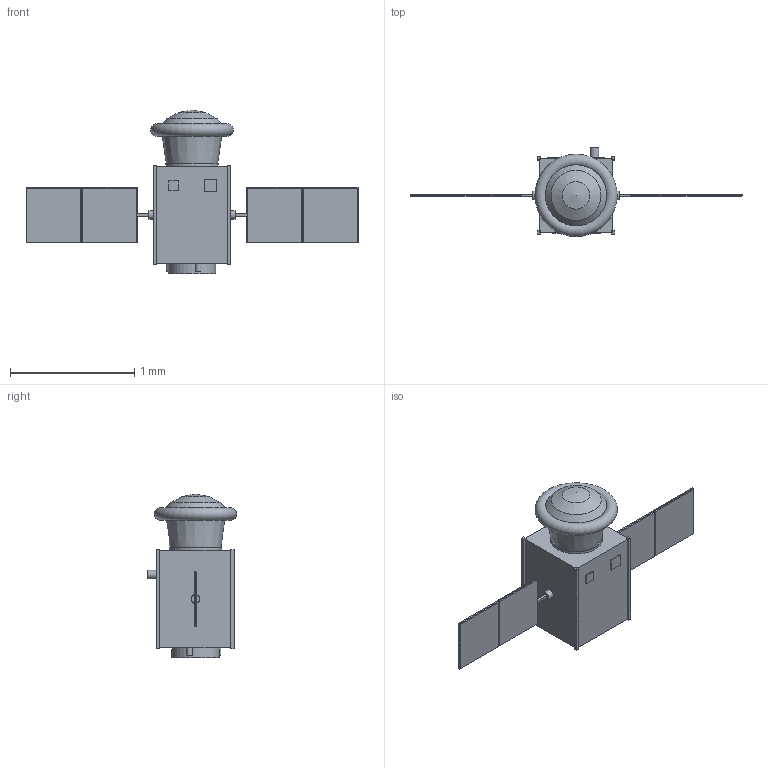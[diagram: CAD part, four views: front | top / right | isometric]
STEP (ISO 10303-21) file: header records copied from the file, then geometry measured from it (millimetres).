
FILE_DESCRIPTION(('Open CASCADE Model'),'2;1');
FILE_NAME('Open CASCADE Shape Model','2026-10-04T13:15:41',('Author'),( 'Open CASCADE'),'Open CASCADE STEP processor 7.9','Open CASCADE 7.9' ,'Unknown');
FILE_SCHEMA(('AUTOMOTIVE_DESIGN { 1 0 10303 214 1 1 1 1 }'));
Length unit declared in the file: millimetre
Products named in the file (51): SP-MECH; capsule_backshell; nose; heat_shield_packed; sample_drawer; sample_cassette_1; sample_cassette_2; sample_cassette_3; sample_cassette_4; optical_window; capsule_avionics_and_hold_battery; parachute_canister; recovery_beacon; separation_interface; service_module_structure; corner_rail_-X-Y; corner_rail_-X+Y; corner_rail_+X-Y; corner_rail_+X+Y; radiator_+Y_face; experiment_instruments_microscope_pumps_reservoirs; propellant_tank_LMP-103S; battery; on-board_computer_and_radios; reaction_wheel_1; reaction_wheel_2; reaction_wheel_3; magnetorquer_1; magnetorquer_2; star_tracker; S-band_antenna; X-band_antenna; 1_g_centrifuge_housing; 1_g_rotor_and_ring_cassette_8_cm_radius; counter-rotor; 22_N_thruster_1; 22_N_thruster_2; 22_N_thruster_3; launch_separation_ring; array_drive_-X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
Assembly tree (50 placements, depth 2):
  SP-MECH
    capsule_backshell
    nose
    heat_shield_packed
    sample_drawer
    sample_cassette_1
    sample_cassette_2
    sample_cassette_3
    sample_cassette_4
    optical_window
    capsule_avionics_and_hold_battery
    parachute_canister
    recovery_beacon
    separation_interface
    service_module_structure
    corner_rail_-X-Y
    corner_rail_-X+Y
    corner_rail_+X-Y
    corner_rail_+X+Y
    radiator_+Y_face
    experiment_instruments_microscope_pumps_reservoirs
    propellant_tank_LMP-103S
    battery
    on-board_computer_and_radios
    reaction_wheel_1
    reaction_wheel_2
    reaction_wheel_3
    magnetorquer_1
    magnetorquer_2
    star_tracker
    S-band_antenna
    X-band_antenna
    1_g_centrifuge_housing
    1_g_rotor_and_ring_cassette_8_cm_radius
    counter-rotor
    22_N_thruster_1
    22_N_thruster_2
    22_N_thruster_3
    launch_separation_ring
    array_drive_-X
    yoke_-X
    solar_panel_-X1
    panel_frame_-X1
    solar_panel_-X2
    panel_frame_-X2
    array_drive_+X
    yoke_+X
    solar_panel_+X1
    panel_frame_+X1
    solar_panel_+X2
    panel_frame_+X2
Bounding box: 2.67 x 0.72 x 1.32 mm (x, y, z)
Volume: 0.4 mm3; surface area: 11 mm2
Topology: 50 solids, 50 shells, 233 faces, 410 edges, 272 vertices
Faces by surface type: plane 207, cylinder 20, cone 4, torus 1, sphere 1
Full cylindrical faces by diameter (mm): 0.024 x2, 0.04 x1, 0.045 x3, 0.07 x3, 0.09 x3, 0.14 x1, 0.17 x2, 0.22 x1, 0.341 x1, 0.381 x1, 0.423 x1, 0.491 x1
Entity records: 12012 total; most frequent: DIRECTION 1832, CARTESIAN_POINT 1773, LINE 1131, VECTOR 1131, ORIENTED_EDGE 812, PCURVE 812, DEFINITIONAL_REPRESENTATION 812, EDGE_CURVE 406
